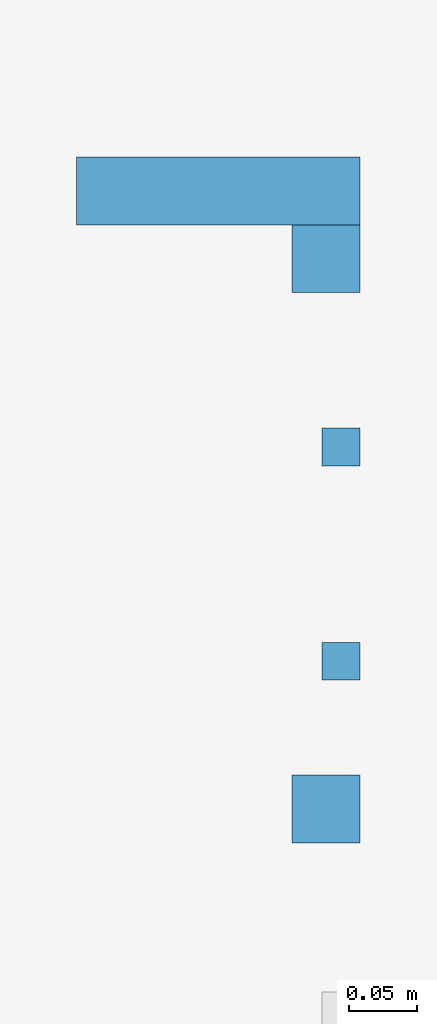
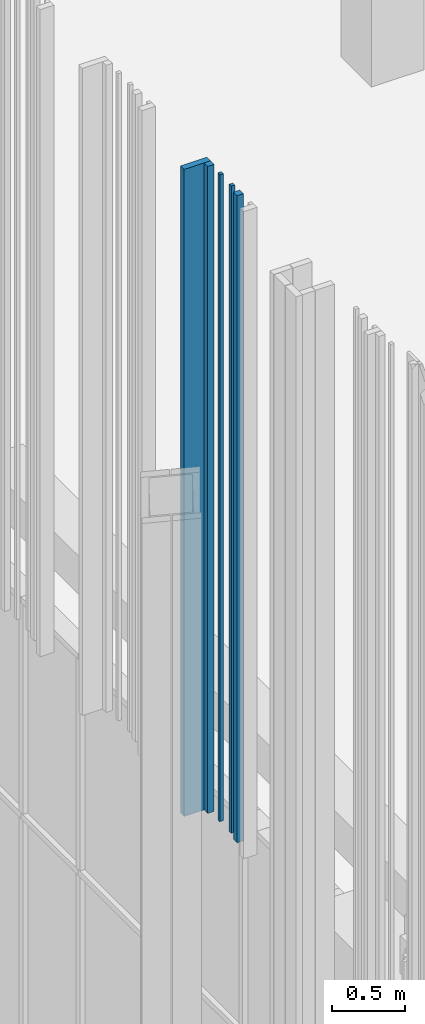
# One storey, part 90 of 390: 5 walls.
"""IFC2X3 building model written with IfcOpenShell, lengths in millimetres."""

from ifc_helpers import new_model, entity, si_unit, converted_unit, derived_unit, money_unit, direction, frame, origin_with_axes, place, context, subcontext, project, spatial, faceted_brep, material, type_object, element, save


model = new_model("IFC2X3")

# Units and contexts
model_context = context("Model", 3, precision=1e-05, world=origin_with_axes(), true_north=direction((0.0, 1.0)))
body_context = subcontext(model_context, "Body", "Model", "MODEL_VIEW")
ifc_project = project(units=[si_unit("LENGTHUNIT", "METRE", prefix="MILLI"), si_unit("AREAUNIT", "SQUARE_METRE"), si_unit("VOLUMEUNIT", "CUBIC_METRE"), converted_unit("PLANEANGLEUNIT", "DEGREE", entity("IfcPlaneAngleMeasure", 0.0174532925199), si_unit("PLANEANGLEUNIT", "RADIAN"), dimensions=[0, 0, 0, 0, 0, 0, 0]), si_unit("SOLIDANGLEUNIT", "STERADIAN"), money_unit("EUR"), converted_unit("TIMEUNIT", "Year", entity("IfcTimeMeasure", 31556926.0), si_unit("TIMEUNIT", "SECOND"), dimensions=[0, 0, 1, 0, 0, 0, 0]), si_unit("MASSUNIT", "GRAM", prefix="KILO"), si_unit("THERMODYNAMICTEMPERATUREUNIT", "DEGREE_CELSIUS"), si_unit("LUMINOUSINTENSITYUNIT", "LUMEN"), si_unit("ENERGYUNIT", "JOULE", prefix="MEGA"), derived_unit("THERMALCONDUCTANCEUNIT", [(si_unit("POWERUNIT", "WATT"), 1), (si_unit("LENGTHUNIT", "METRE"), -1), (si_unit("THERMODYNAMICTEMPERATUREUNIT", "KELVIN"), -1)]), derived_unit("SPECIFICHEATCAPACITYUNIT", [(si_unit("ENERGYUNIT", "JOULE"), 1), (si_unit("MASSUNIT", "GRAM", prefix="KILO"), -1), (si_unit("THERMODYNAMICTEMPERATUREUNIT", "KELVIN"), -1)]), derived_unit("MASSDENSITYUNIT", [(si_unit("MASSUNIT", "GRAM", prefix="KILO"), 1), (si_unit("VOLUMEUNIT", "CUBIC_METRE"), -1)])], contexts=[model_context])

# Site, building, storey
site_placement = place(None, origin_with_axes())
site = spatial("IfcSite", under=ifc_project, at=site_placement, Name="Site", CompositionType="ELEMENT")
building_placement = place(site_placement, origin_with_axes())
building = spatial("IfcBuilding", under=site, at=building_placement, Name="Building", CompositionType="ELEMENT")
storey_placement = place(building_placement, origin_with_axes())
storey = spatial("IfcBuildingStorey", under=building, at=storey_placement, Name="1 korrus", CompositionType="ELEMENT", Elevation=0.0)

# Walls
ifc_material = material(Name="Site specified")
wall_type = type_object("IfcWallType", Name="Puitfassaadi ribistik", PredefinedType="NOTDEFINED")
wall_1_placement = place(storey_placement, frame((122308.499997, 47952.0000095, 4424.99966101), z_axis=(0.0, 0.0, 1.0), x_axis=(0.0, 1.0, 0.0)))
element("IfcWall", 1, at=wall_1_placement, inside=storey, type_object=wall_type, material=ifc_material, Name="Site specified", context=body_context, shape_type="Brep", body=[
    faceted_brep([(25.0, 104.5, 5440.00033899), (25.0, 104.5, 0.0), (-25.0, 104.5, 0.0), (-25.0, 104.5, 5440.00033899), (25.0, -104.5, 5440.00033899), (25.0, -104.5, 0.0), (-25.0, -104.5, 0.0), (-25.0, -104.5, 5440.00033899)], [[[0, 1, 2, 3]], [[4, 5, 1, 0]], [[2, 1, 5, 6]], [[3, 2, 6, 7]], [[4, 0, 3, 7]], [[7, 6, 5, 4]]]),
])
wall_2_placement = place(storey_placement, frame((122398.999997, 47763.0000095, 4424.99966101), z_axis=(0.0, 0.0, 1.0), x_axis=(0.0, 1.0, 0.0)))
element("IfcWall", 2, at=wall_2_placement, inside=storey, type_object=wall_type, material=ifc_material, Name="Site specified", context=body_context, shape_type="Brep", body=[
    faceted_brep([(14.0, 14.0, 5440.00033899), (14.0, 14.0, 0.0), (-14.0, 14.0, 0.0), (-14.0, 14.0, 5440.00033899), (14.0, -14.0, 5440.00033899), (14.0, -14.0, 0.0), (-14.0, -14.0, 0.0), (-14.0, -14.0, 5440.00033899)], [[[0, 1, 2, 3]], [[4, 5, 1, 0]], [[2, 1, 5, 6]], [[3, 2, 6, 7]], [[4, 0, 3, 7]], [[7, 6, 5, 4]]]),
])
wall_3_placement = place(storey_placement, frame((122387.999997, 47496.0000095, 4424.99966101), z_axis=(0.0, 0.0, 1.0), x_axis=(0.0, 1.0, 0.0)))
element("IfcWall", 3, at=wall_3_placement, inside=storey, type_object=wall_type, material=ifc_material, Name="Site specified", context=body_context, shape_type="Brep", body=[
    faceted_brep([(25.0, 25.0, 5440.00033899), (25.0, 25.0, 0.0), (-25.0, 25.0, 0.0), (-25.0, 25.0, 5440.00033899), (25.0, -25.0, 5440.00033899), (25.0, -25.0, 0.0), (-25.0, -25.0, 0.0), (-25.0, -25.0, 5440.00033899)], [[[0, 1, 2, 3]], [[4, 5, 1, 0]], [[2, 1, 5, 6]], [[3, 2, 6, 7]], [[4, 0, 3, 7]], [[7, 6, 5, 4]]]),
])
wall_4_placement = place(storey_placement, frame((122398.999997, 47605.0000095, 4424.99966101), z_axis=(0.0, 0.0, 1.0), x_axis=(0.0, 1.0, 0.0)))
element("IfcWall", 4, at=wall_4_placement, inside=storey, type_object=wall_type, material=ifc_material, Name="Site specified", context=body_context, shape_type="Brep", body=[
    faceted_brep([(14.0, 14.0, 5440.00033899), (14.0, 14.0, 0.0), (-14.0, 14.0, 0.0), (-14.0, 14.0, 5440.00033899), (14.0, -14.0, 5440.00033899), (14.0, -14.0, 0.0), (-14.0, -14.0, 0.0), (-14.0, -14.0, 5440.00033899)], [[[0, 1, 2, 3]], [[4, 5, 1, 0]], [[2, 1, 5, 6]], [[3, 2, 6, 7]], [[4, 0, 3, 7]], [[7, 6, 5, 4]]]),
])
wall_5_placement = place(storey_placement, frame((122387.999997, 47902.0000095, 4424.99966101), z_axis=(0.0, 0.0, 1.0), x_axis=(0.0, 1.0, 0.0)))
element("IfcWall", 5, at=wall_5_placement, inside=storey, type_object=wall_type, material=ifc_material, Name="Site specified", context=body_context, shape_type="Brep", body=[
    faceted_brep([(25.0, 25.0, 5440.00033899), (25.0, 25.0, 0.0), (-25.0, 25.0, 0.0), (-25.0, 25.0, 5440.00033899), (25.0, -25.0, 5440.00033899), (25.0, -25.0, 0.0), (-25.0, -25.0, 0.0), (-25.0, -25.0, 5440.00033899)], [[[0, 1, 2, 3]], [[4, 5, 1, 0]], [[2, 1, 5, 6]], [[3, 2, 6, 7]], [[4, 0, 3, 7]], [[7, 6, 5, 4]]]),
])

save(model, "model.ifc")
